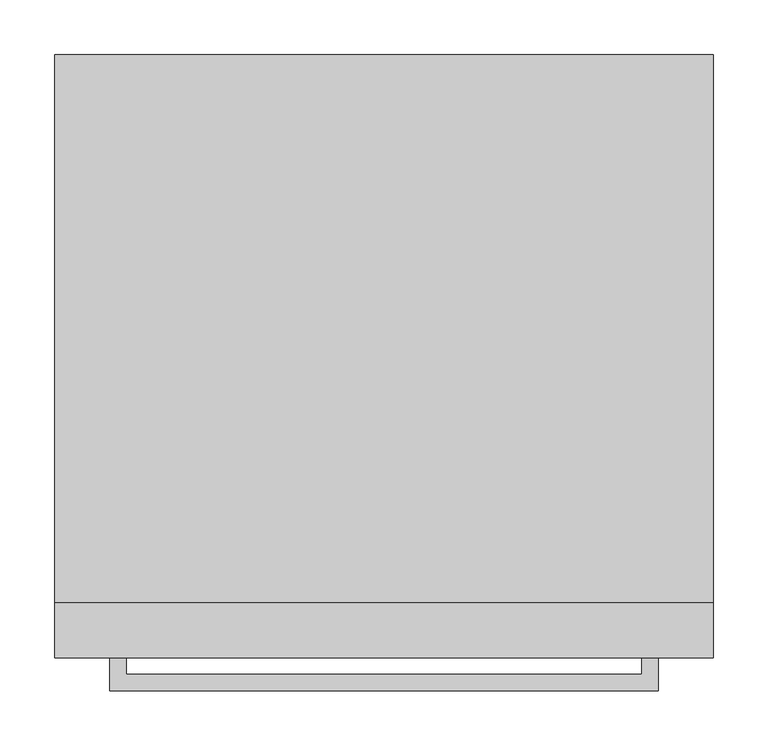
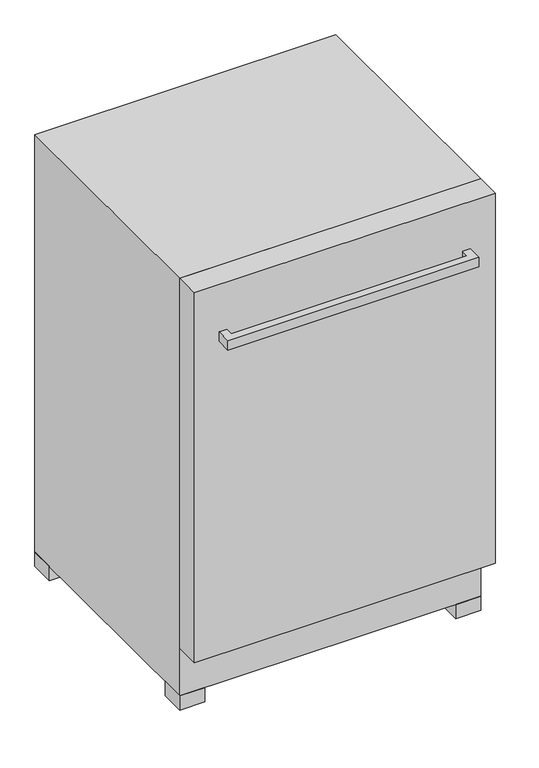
"""IFC4 building model written with IfcOpenShell, lengths in millimetres: proxy geometry, SUIKo 1550 : SUIKo 1550."""

from ifc_helpers import new_model, si_unit, frame, origin, place, context, project, spatial, polyline, outline, extrude, source, transform, mapped, element, save


def specialty_equipment_b080ece4(model_context):
    return source(origin(), model_context, "Body", "SweptSolid", [
        extrude(outline(polyline([(-950.0, -609.8345306), (-950.0, -579.8345306), (-935.0, -579.8345306), (-935.0, -594.8345306), (-465.0, -594.8345306), (-465.0, -579.8345306), (-450.0, -579.8345306), (-450.0, -609.8345306), (-950.0, -609.8345306)])), frame((0.0, 0.0, 1096.8132517), z_axis=(0.0, 0.0, 1.0), x_axis=(1.0, 0.0, 0.0)), (0.0, 0.0, 1.0), 20.0),
        extrude(outline(polyline([(-400.0, -479.8345306), (-400.0, -529.8345306), (-450.0, -529.8345306), (-450.0, -479.8345306), (-400.0, -479.8345306)])), frame((0.0, 0.0, 306.8132517), z_axis=(0.0, 0.0, 1.0), x_axis=(1.0, 0.0, 0.0)), (0.0, 0.0, 1.0), 30.0),
        extrude(outline(polyline([(-400.0, -29.8345306), (-400.0, -79.8345306), (-450.0, -79.8345306), (-450.0, -29.8345306), (-400.0, -29.8345306)])), frame((0.0, 0.0, 306.8132517), z_axis=(0.0, 0.0, 1.0), x_axis=(1.0, 0.0, 0.0)), (0.0, 0.0, 1.0), 30.0),
        extrude(outline(polyline([(-950.0, -29.8345306), (-950.0, -79.8345306), (-1000.0, -79.8345306), (-1000.0, -29.8345306), (-950.0, -29.8345306)])), frame((0.0, 0.0, 306.8132517), z_axis=(0.0, 0.0, 1.0), x_axis=(1.0, 0.0, 0.0)), (0.0, 0.0, 1.0), 30.0),
        extrude(outline(polyline([(-950.0, -479.8345306), (-950.0, -529.8345306), (-1000.0, -529.8345306), (-1000.0, -479.8345306), (-950.0, -479.8345306)])), frame((0.0, 0.0, 306.8132517), z_axis=(0.0, 0.0, 1.0), x_axis=(1.0, 0.0, 0.0)), (0.0, 0.0, 1.0), 30.0),
        extrude(outline(polyline([(-400.0, -579.8345306), (-1000.0, -579.8345306), (-1000.0, -529.8345306), (-400.0, -529.8345306), (-400.0, -579.8345306)])), frame((0.0, 0.0, 436.8132517), z_axis=(0.0, 0.0, 1.0), x_axis=(1.0, 0.0, 0.0)), (0.0, 0.0, 1.0), 780.0),
        extrude(outline(polyline([(-400.0, -529.8345306), (-1000.0, -529.8345306), (-1000.0, -29.8345306), (-400.0, -29.8345306), (-400.0, -529.8345306)])), frame((0.0, 0.0, 336.8132517), z_axis=(0.0, 0.0, 1.0), x_axis=(1.0, 0.0, 0.0)), (0.0, 0.0, 1.0), 880.0),
    ])


if __name__ == "__main__":
    model = new_model("IFC4")
    model_context = context("Model", 3, world=origin())
    ifc_project = project(units=[si_unit("LENGTHUNIT", "METRE", prefix="MILLI")], contexts=[model_context])
    site = spatial("IfcSite", under=ifc_project)
    building = spatial("IfcBuilding", under=site)
    placement = place(None, origin())
    specialty_equipment_shape = specialty_equipment_b080ece4(model_context)
    element("IfcBuildingElementProxy", 1, Name="SUIKo 1550 : SUIKo 1550", ObjectType="SUIKo 1550 : SUIKo 1550", at=placement, inside=building, context=model_context, shape_type="MappedRepresentation", body=[
        mapped(specialty_equipment_shape, transform((0.0, 0.0, 0.0), x_axis=(1.0, 0.0, 0.0), y_axis=(0.0, 1.0, 0.0), z_axis=(0.0, 0.0, 1.0))),
    ])
    save(model, "model.ifc")
